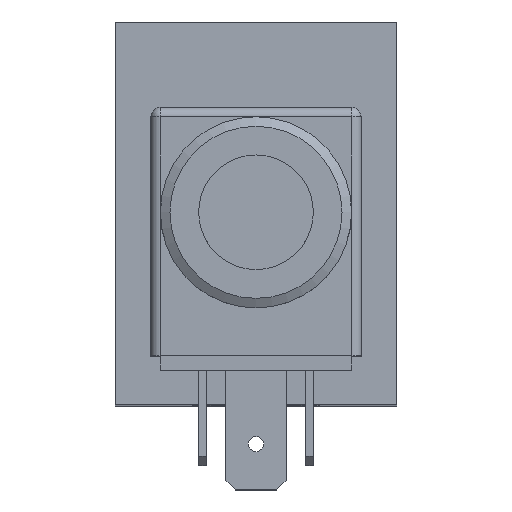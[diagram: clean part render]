
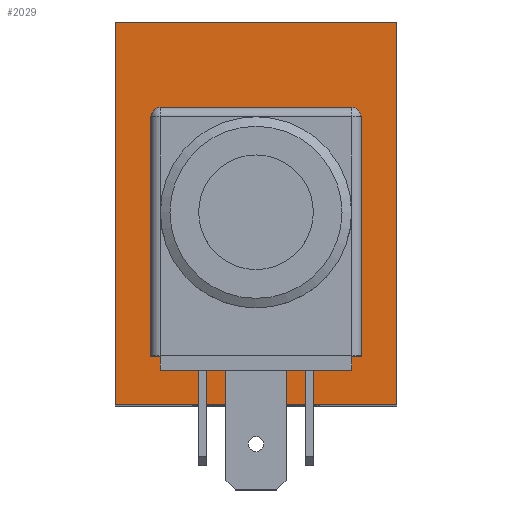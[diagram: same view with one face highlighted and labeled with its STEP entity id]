
A CAD part, top view. The second image highlights one B-rep face of the part: STEP entity #2029.
In plain terms, the highlighted planar face has unit normal (0, 0, 1).
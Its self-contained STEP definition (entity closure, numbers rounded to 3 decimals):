
#71=LINE('',#3169,#226);
#76=LINE('',#3182,#231);
#80=LINE('',#3194,#235);
#84=LINE('',#3206,#239);
#86=LINE('',#3216,#241);
#91=LINE('',#3225,#246);
#95=LINE('',#3233,#250);
#96=LINE('',#3235,#251);
#226=VECTOR('',#2604,15.);
#231=VECTOR('',#2617,15.);
#235=VECTOR('',#2629,15.);
#239=VECTOR('',#2641,15.);
#241=VECTOR('',#2653,40.);
#246=VECTOR('',#2660,29.5);
#250=VECTOR('',#2668,29.5);
#251=VECTOR('',#2671,40.);
#445=FACE_BOUND('',#726,.T.);
#446=FACE_BOUND('',#727,.T.);
#726=EDGE_LOOP('',(#1564,#1565,#1566,#1567,#1568,#1569,#1570,#1571));
#727=EDGE_LOOP('',(#1572,#1573,#1574,#1575));
#857=CIRCLE('',#2215,3.5);
#859=CIRCLE('',#2219,3.5);
#861=CIRCLE('',#2223,3.5);
#863=CIRCLE('',#2227,3.5);
#973=VERTEX_POINT('',#3166);
#974=VERTEX_POINT('',#3168);
#976=VERTEX_POINT('',#3174);
#978=VERTEX_POINT('',#3180);
#980=VERTEX_POINT('',#3186);
#982=VERTEX_POINT('',#3192);
#984=VERTEX_POINT('',#3198);
#986=VERTEX_POINT('',#3204);
#987=VERTEX_POINT('',#3212);
#989=VERTEX_POINT('',#3215);
#991=VERTEX_POINT('',#3221);
#994=VERTEX_POINT('',#3231);
#1170=EDGE_CURVE('',#974,#973,#71,.T.);
#1174=EDGE_CURVE('',#973,#976,#857,.T.);
#1177=EDGE_CURVE('',#976,#978,#76,.T.);
#1180=EDGE_CURVE('',#978,#980,#859,.T.);
#1183=EDGE_CURVE('',#980,#982,#80,.T.);
#1186=EDGE_CURVE('',#982,#984,#861,.T.);
#1189=EDGE_CURVE('',#984,#986,#84,.T.);
#1191=EDGE_CURVE('',#986,#974,#863,.T.);
#1193=EDGE_CURVE('',#989,#987,#86,.T.);
#1198=EDGE_CURVE('',#991,#989,#91,.T.);
#1202=EDGE_CURVE('',#987,#994,#95,.T.);
#1203=EDGE_CURVE('',#994,#991,#96,.T.);
#1564=ORIENTED_EDGE('',*,*,#1170,.T.);
#1565=ORIENTED_EDGE('',*,*,#1174,.T.);
#1566=ORIENTED_EDGE('',*,*,#1177,.T.);
#1567=ORIENTED_EDGE('',*,*,#1180,.T.);
#1568=ORIENTED_EDGE('',*,*,#1183,.T.);
#1569=ORIENTED_EDGE('',*,*,#1186,.T.);
#1570=ORIENTED_EDGE('',*,*,#1189,.T.);
#1571=ORIENTED_EDGE('',*,*,#1191,.T.);
#1572=ORIENTED_EDGE('',*,*,#1203,.T.);
#1573=ORIENTED_EDGE('',*,*,#1198,.T.);
#1574=ORIENTED_EDGE('',*,*,#1193,.T.);
#1575=ORIENTED_EDGE('',*,*,#1202,.T.);
#1840=PLANE('',#2233);
#2029=ADVANCED_FACE('',(#445,#446),#1840,.T.);
#2215=AXIS2_PLACEMENT_3D('',#3176,#2611,#2612);
#2219=AXIS2_PLACEMENT_3D('',#3188,#2623,#2624);
#2223=AXIS2_PLACEMENT_3D('',#3200,#2635,#2636);
#2227=AXIS2_PLACEMENT_3D('',#3209,#2646,#2647);
#2233=AXIS2_PLACEMENT_3D('',#3234,#2669,#2670);
#2604=DIRECTION('',(1.,0.,0.));
#2611=DIRECTION('center_axis',(0.,0.,-1.));
#2612=DIRECTION('ref_axis',(-1.,0.,0.));
#2617=DIRECTION('',(0.,-1.,0.));
#2623=DIRECTION('center_axis',(0.,0.,-1.));
#2624=DIRECTION('ref_axis',(0.,1.,0.));
#2629=DIRECTION('',(-1.,0.,0.));
#2635=DIRECTION('center_axis',(0.,0.,-1.));
#2636=DIRECTION('ref_axis',(1.,0.,0.));
#2641=DIRECTION('',(0.,1.,0.));
#2646=DIRECTION('center_axis',(0.,0.,-1.));
#2647=DIRECTION('ref_axis',(0.,-1.,0.));
#2653=DIRECTION('',(0.,-1.,0.));
#2660=DIRECTION('',(-1.,0.,0.));
#2668=DIRECTION('',(1.,0.,0.));
#2669=DIRECTION('center_axis',(0.,0.,1.));
#2670=DIRECTION('ref_axis',(1.,0.,0.));
#2671=DIRECTION('',(0.,1.,0.));
#3166=CARTESIAN_POINT('',(7.5,11.,61.));
#3168=CARTESIAN_POINT('',(-7.5,11.,61.));
#3169=CARTESIAN_POINT('',(-3.75,11.,61.));
#3174=CARTESIAN_POINT('',(11.,7.5,61.));
#3176=CARTESIAN_POINT('Origin',(7.5,7.5,61.));
#3180=CARTESIAN_POINT('',(11.,-7.5,61.));
#3182=CARTESIAN_POINT('',(11.,-6.25,61.));
#3186=CARTESIAN_POINT('',(7.5,-11.,61.));
#3188=CARTESIAN_POINT('Origin',(7.5,-7.5,61.));
#3192=CARTESIAN_POINT('',(-7.5,-11.,61.));
#3194=CARTESIAN_POINT('',(3.75,-11.,61.));
#3198=CARTESIAN_POINT('',(-11.,-7.5,61.));
#3200=CARTESIAN_POINT('Origin',(-7.5,-7.5,61.));
#3204=CARTESIAN_POINT('',(-11.,7.5,61.));
#3206=CARTESIAN_POINT('',(-11.,-13.75,61.));
#3209=CARTESIAN_POINT('Origin',(-7.5,7.5,61.));
#3212=CARTESIAN_POINT('',(-14.75,-20.,61.));
#3215=CARTESIAN_POINT('',(-14.75,20.,61.));
#3216=CARTESIAN_POINT('',(-14.75,-20.,61.));
#3221=CARTESIAN_POINT('',(14.75,20.,61.));
#3225=CARTESIAN_POINT('',(0.,20.,61.));
#3231=CARTESIAN_POINT('',(14.75,-20.,61.));
#3233=CARTESIAN_POINT('',(0.,-20.,61.));
#3234=CARTESIAN_POINT('Origin',(0.,-20.,61.));
#3235=CARTESIAN_POINT('',(14.75,-20.,61.));
